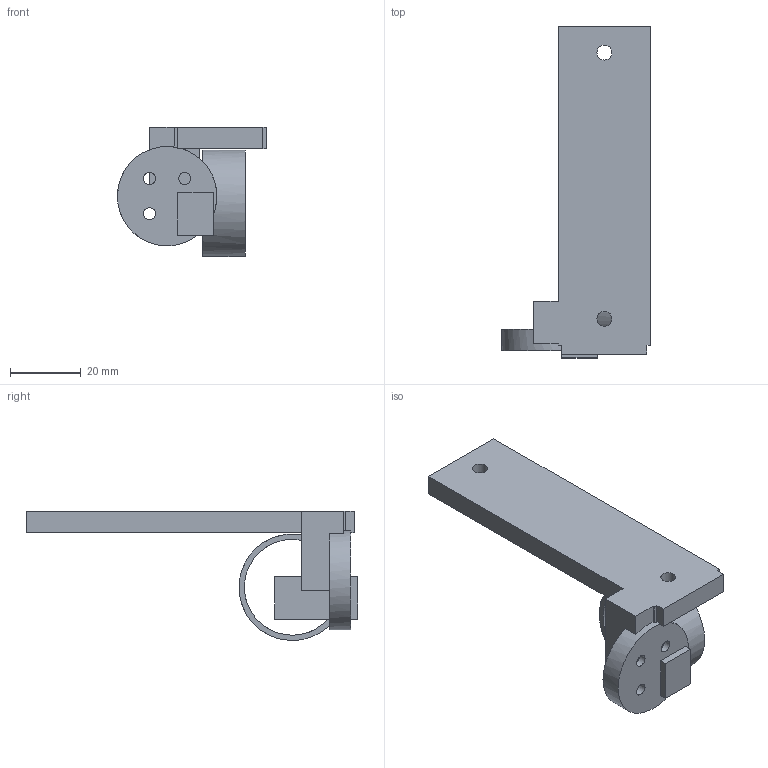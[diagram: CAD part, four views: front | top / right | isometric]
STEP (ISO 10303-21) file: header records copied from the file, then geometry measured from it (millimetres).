
FILE_DESCRIPTION(('Open CASCADE Model'),'2;1');
FILE_NAME('Open CASCADE Shape Model','2026-07-25T17:42:38',('Author'),( 'Open CASCADE'),'Open CASCADE STEP processor 7.9','build123d', 'Unknown');
FILE_SCHEMA(('AUTOMOTIVE_DESIGN { 1 0 10303 214 1 1 1 1 }'));
Length unit declared in the file: millimetre
Products named in the file (1): COMPOUND
Bounding box: 42 x 93.5 x 36.35 mm (x, y, z)
Volume: 23591.3 mm3; surface area: 11480 mm2
Topology: 1 solids, 1 shells, 42 faces, 123 edges, 82 vertices
Faces by surface type: plane 33, cylinder 9
Full cylindrical faces by diameter (mm): 3.4 x3, 4.2 x2, 27 x1, 30 x1
Entity records: 3092 total; most frequent: CARTESIAN_POINT 738, DIRECTION 399, ORIENTED_EDGE 246, PCURVE 246, DEFINITIONAL_REPRESENTATION 246, LINE 237, VECTOR 237, EDGE_CURVE 123
